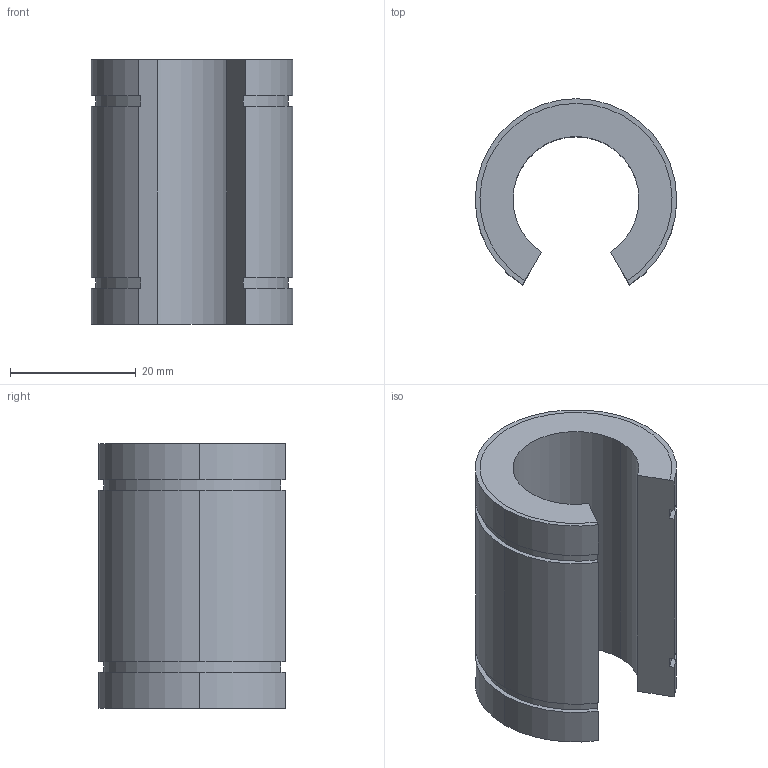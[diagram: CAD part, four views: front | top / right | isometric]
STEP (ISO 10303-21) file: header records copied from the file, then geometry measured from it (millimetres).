
FILE_DESCRIPTION((''),'2;1');
FILE_NAME('C:\Documents and Settings\ｿﾀﾀ蠑ｷ1\ｹﾙﾅﾁ ﾈｭｸ饅\ｺﾎﾇｰﾆﾄﾀﾏ\ﾁｦﾇｰ\LM__UUOP\LM20UUOP.stp','2005-06-14T16:16:34',('ｿﾀﾀ蠑ｷ1'),(''),'Autodesk Inventor 9','Autodesk Inventor 9','');
FILE_SCHEMA(('AUTOMOTIVE_DESIGN { 1 0 10303 214 1 1 1 1 }'));
Length unit declared in the file: millimetre
Products named in the file (1): LM__
Bounding box: 32 x 29.55 x 42 mm (x, y, z)
Volume: 16663.5 mm3; surface area: 7150.8 mm2
Topology: 1 solids, 1 shells, 26 faces, 72 edges, 48 vertices
Faces by surface type: cylinder 16, plane 10
Entity records: 873 total; most frequent: DIRECTION 160, CARTESIAN_POINT 147, ORIENTED_EDGE 144, EDGE_CURVE 72, AXIS2_PLACEMENT_3D 61, VERTEX_POINT 48, VECTOR 38, LINE 38
